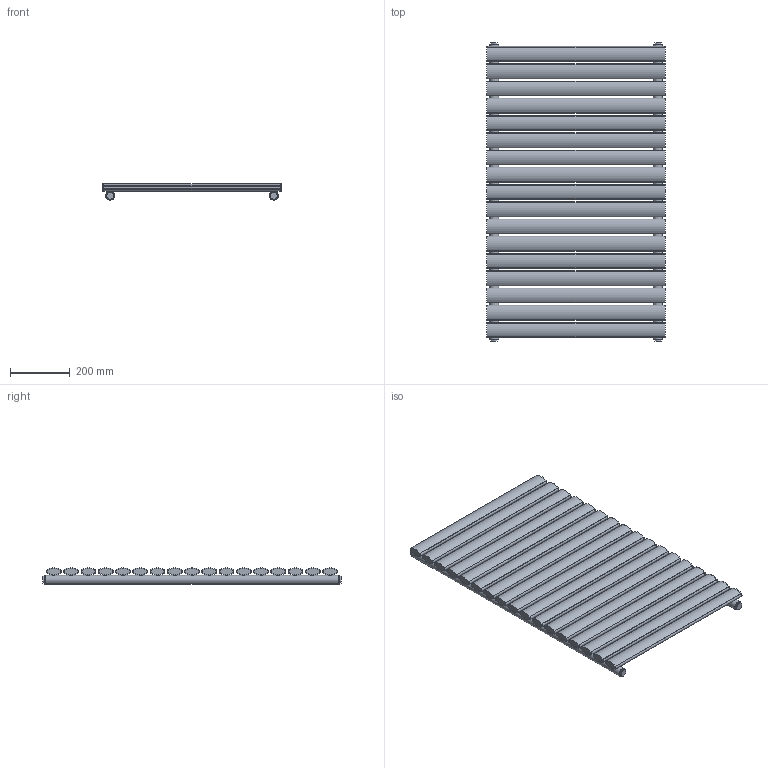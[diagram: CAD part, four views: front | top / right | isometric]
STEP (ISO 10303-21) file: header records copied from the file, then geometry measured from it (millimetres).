
FILE_DESCRIPTION(/* description */ (''),/* implementation_level */ '2;1');
FILE_NAME(/* name */ 'C:\Grzejniki\13DLUXRAD\pokojowe\FORTUNA\FORTUNA POJEDYNCZA 600x990.iam.stp',/* time_stamp */ '2016-06-28T17:32:32+02:00',/* author */ ('m.szydziak'),/* organization */ (''),/* preprocessor_version */ 'ST-DEVELOPER v16.5',/* originating_system */ 'Autodesk Inventor 2017',/* authorisation */ '');
FILE_SCHEMA (('AUTOMOTIVE_DESIGN { 1 0 10303 214 3 1 1 }'));
Length unit declared in the file: millimetre
Products named in the file (5): FORTUNA POJEDYNCZA 600x990; %%c30x1,5x990; 50x25x1,2x600; zaślepka fi30 G0,5inch; korek
Assembly tree (27 placements, depth 2):
  FORTUNA POJEDYNCZA 600x990
    %%c30x1,5x990  x2
    50x25x1,2x600  x17
    zaślepka fi30 G0,5inch  x4
    korek  x4
Bounding box: 600 x 1002 x 54.86 mm (x, y, z)
Volume: 2872639.1 mm3; surface area: 2634037.9 mm2
Topology: 27 solids, 27 shells, 320 faces, 768 edges, 536 vertices
Faces by surface type: cylinder 184, plane 136
Full cylindrical faces by diameter (mm): 5.8 x34, 18.631 x4, 24 x4, 27 x4, 30 x2
Entity records: 1429 total; most frequent: CARTESIAN_POINT 330, DIRECTION 238, ORIENTED_EDGE 146, AXIS2_PLACEMENT_3D 103, EDGE_CURVE 73, VERTEX_POINT 53, EDGE_LOOP 48, FACE_OUTER_BOUND 36
